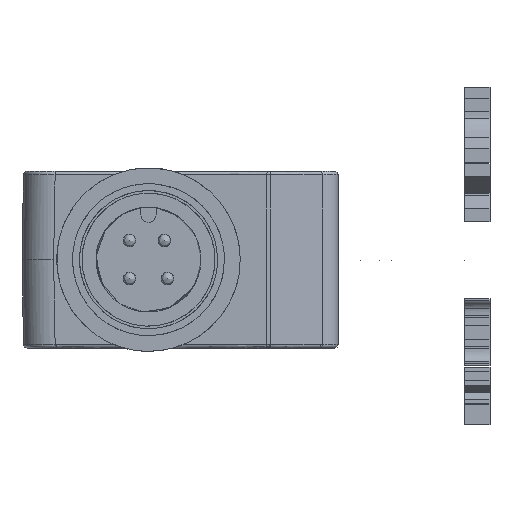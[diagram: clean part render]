
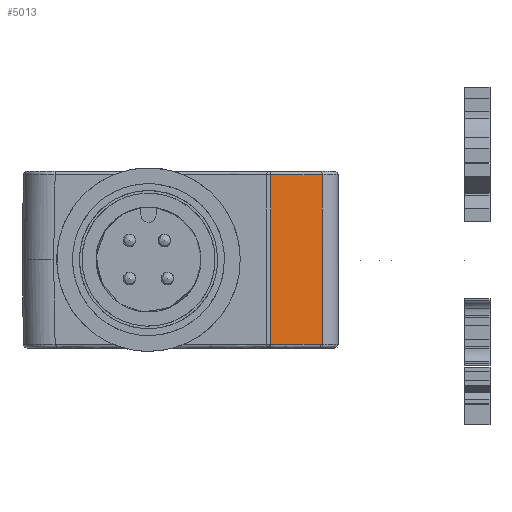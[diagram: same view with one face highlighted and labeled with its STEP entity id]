
A CAD part, front view. The second image highlights one B-rep face of the part: STEP entity #5013.
In plain terms, the highlighted free-form (B-spline) face has degree [1, 1] with [2, 2] control points.
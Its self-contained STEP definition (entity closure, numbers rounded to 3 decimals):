
#721=B_SPLINE_CURVE_WITH_KNOTS('',1,(#21512,#21513),.UNSPECIFIED.,.F.,.F.,
(2,2),(0.,1.),.UNSPECIFIED.);
#5013=ADVANCED_FACE('',(#5661),#5263,.T.);
#5263=B_SPLINE_SURFACE_WITH_KNOTS('',1,1,((#21514,#21515),(#21516,#21517)),
 .UNSPECIFIED.,.F.,.F.,.F.,(2,2),(2,2),(0.,1.),(0.,1.),.UNSPECIFIED.);
#5661=FACE_OUTER_BOUND('',#6157,.T.);
#6157=EDGE_LOOP('',(#8277,#8278,#8279,#8280));
#8277=ORIENTED_EDGE('',*,*,#10130,.F.);
#8278=ORIENTED_EDGE('',*,*,#10236,.T.);
#8279=ORIENTED_EDGE('',*,*,#10176,.F.);
#8280=ORIENTED_EDGE('',*,*,#10125,.F.);
#9077=VERTEX_POINT('',#20583);
#9078=VERTEX_POINT('',#20587);
#9082=VERTEX_POINT('',#20622);
#9109=VERTEX_POINT('',#21102);
#10125=EDGE_CURVE('',#9078,#9077,#10612,.T.);
#10130=EDGE_CURVE('',#9082,#9078,#10615,.T.);
#10176=EDGE_CURVE('',#9077,#9109,#10659,.T.);
#10236=EDGE_CURVE('',#9082,#9109,#721,.T.);
#10612=(
BOUNDED_CURVE()
B_SPLINE_CURVE(1,(#20588,#20589),.UNSPECIFIED.,.F.,.F.)
B_SPLINE_CURVE_WITH_KNOTS((2,2),(0.,1.),.UNSPECIFIED.)
CURVE()
GEOMETRIC_REPRESENTATION_ITEM()
RATIONAL_B_SPLINE_CURVE((1.,1.))
REPRESENTATION_ITEM('')
);
#10615=(
BOUNDED_CURVE()
B_SPLINE_CURVE(1,(#20623,#20624),.UNSPECIFIED.,.F.,.F.)
B_SPLINE_CURVE_WITH_KNOTS((2,2),(0.,1.),.UNSPECIFIED.)
CURVE()
GEOMETRIC_REPRESENTATION_ITEM()
RATIONAL_B_SPLINE_CURVE((1.,1.))
REPRESENTATION_ITEM('')
);
#10659=(
BOUNDED_CURVE()
B_SPLINE_CURVE(1,(#21100,#21101),.UNSPECIFIED.,.F.,.F.)
B_SPLINE_CURVE_WITH_KNOTS((2,2),(0.,1.),.UNSPECIFIED.)
CURVE()
GEOMETRIC_REPRESENTATION_ITEM()
RATIONAL_B_SPLINE_CURVE((1.,1.))
REPRESENTATION_ITEM('')
);
#20583=CARTESIAN_POINT('',(-8.065,36.63,-6.99));
#20587=CARTESIAN_POINT('',(-8.065,36.63,6.41));
#20588=CARTESIAN_POINT('',(-8.065,36.63,6.41));
#20589=CARTESIAN_POINT('',(-8.065,36.63,-6.99));
#20622=CARTESIAN_POINT('',(-12.127,36.002,6.41));
#20623=CARTESIAN_POINT('',(-12.127,36.002,6.41));
#20624=CARTESIAN_POINT('',(-8.065,36.63,6.41));
#21100=CARTESIAN_POINT('',(-8.065,36.63,-6.99));
#21101=CARTESIAN_POINT('',(-12.127,36.002,-6.99));
#21102=CARTESIAN_POINT('',(-12.127,36.002,-6.99));
#21512=CARTESIAN_POINT('',(-12.127,36.002,6.41));
#21513=CARTESIAN_POINT('',(-12.127,36.002,-6.99));
#21514=CARTESIAN_POINT('',(-12.294,35.977,-7.29));
#21515=CARTESIAN_POINT('',(-12.294,35.977,7.431));
#21516=CARTESIAN_POINT('',(-6.794,36.827,-7.29));
#21517=CARTESIAN_POINT('',(-6.794,36.827,7.431));
